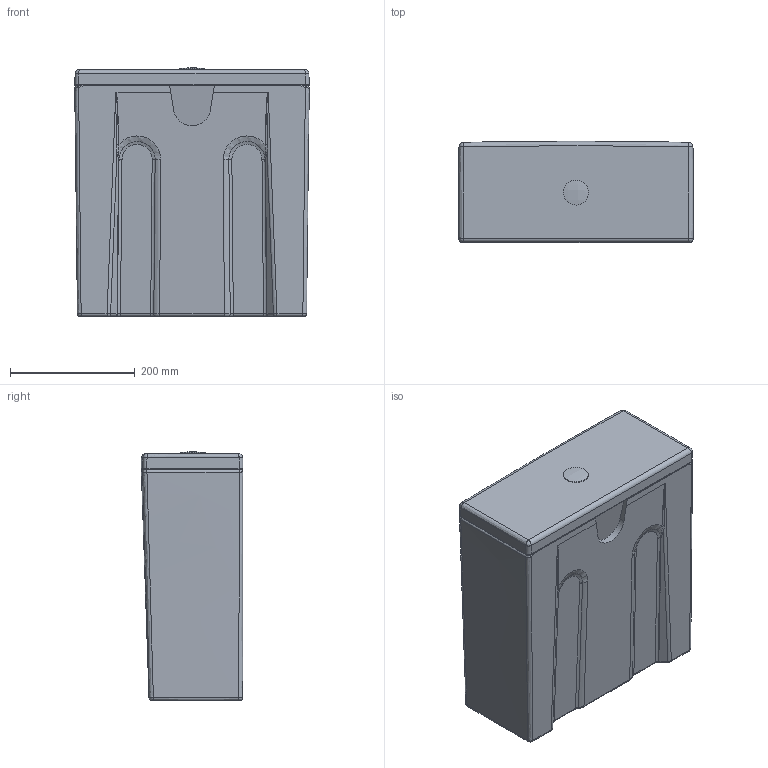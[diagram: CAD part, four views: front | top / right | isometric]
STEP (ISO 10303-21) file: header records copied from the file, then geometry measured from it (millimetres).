
FILE_DESCRIPTION(('CATIA V5 STEP'),'2;1');
FILE_NAME('G:\Laufen Similor\TPM-K\TPE\JStöckli\BIM\Laufen pro\29950\HY29950BIM.stp','2017-01-13T09:30:27+00:00',('none'),('none'),'CATIA Version 5 Release 19 SP 9 (IN-10)','CATIA V5 STEP AP203','none');
FILE_SCHEMA(('CONFIG_CONTROL_DESIGN'));
Length unit declared in the file: millimetre
Products named in the file (1): HY29950BIM
Bounding box: 375.49 x 162.5 x 397.86 mm (x, y, z)
Volume: 22252668.5 mm3; surface area: 536461.9 mm2
Topology: 1 solids, 1 shells, 156 faces, 387 edges, 235 vertices
Faces by surface type: bspline 114, cylinder 25, plane 15, sphere 2
Entity records: 13650 total; most frequent: CARTESIAN_POINT 10981, ORIENTED_EDGE 742, EDGE_CURVE 371, B_SPLINE_CURVE_WITH_KNOTS 310, VERTEX_POINT 220, EDGE_LOOP 159, ADVANCED_FACE 156, FACE_OUTER_BOUND 156
